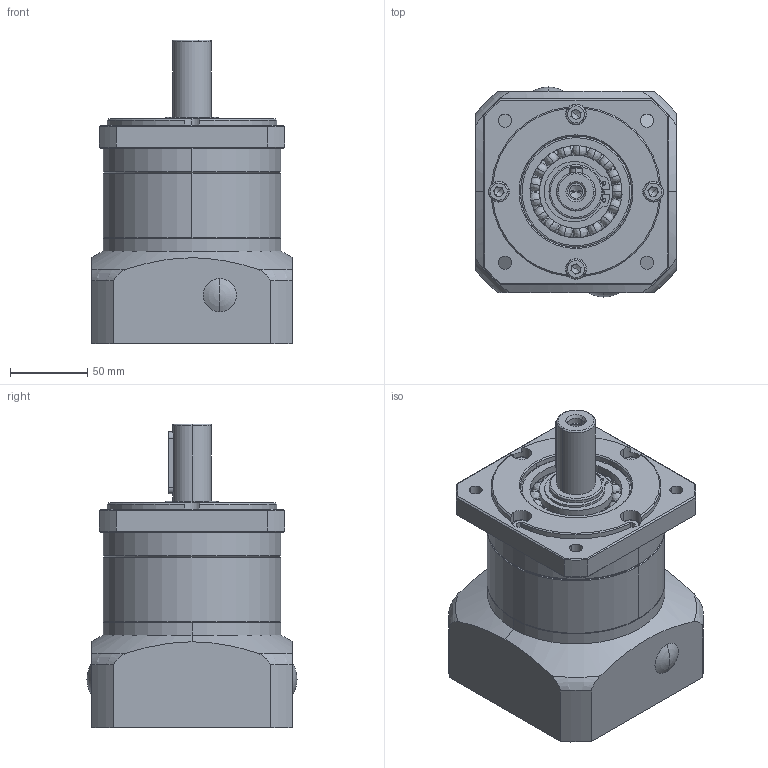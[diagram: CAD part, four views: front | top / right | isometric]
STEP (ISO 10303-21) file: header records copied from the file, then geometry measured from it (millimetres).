
FILE_DESCRIPTION (( 'STEP AP214' ), '1' );
FILE_NAME ('PF120L1-110-24-M8-145.STEP', '2020-09-10T05:55:23', ( '微软用户' ), ( '微软中国' ), 'SwSTEP 2.0', 'SolidWorks 2014', '' );
FILE_SCHEMA (( 'AUTOMOTIVE_DESIGN' ));
Length unit declared in the file: millimetre
Products named in the file (72): Hexagon socket head cap screws GB_GB_FASTENER_SCREWS_HSHCS M8X35-N; Hexagon socket head cap screws GB_GB_FASTENER_SCREWS_HSHCS M8X45-N; Spring lock washers--Normal type GB_GB_FASTENER_WASHER_SW 8; 120源怀堤傷裔; Hexagon socket head cap screws GB_GB_FASTENER_SCREWS_HSHCS M8X20-N; 130输入端盖; 俴陎粣13.513X26; 黑裔15; す瑩怀堤粣; Circlips for shaft--Type B GB_GB_CONNECTING_PIECE_RINGS_CSB 35; 夹头输入轴24; 俴陎謫35; 幗渀粣創13.513X18.513; Circlips for hole--Type B GB_GB_CONNECTING_PIECE_RINGS_CHB 72; 囀喘謫84; Parallel pins Unhardening Steel GB_GB_CONNECTING_PIECE_PIN_PPUS 6X14; Deep groove ball bearings GB_Rolling bearings 6207 GB 276-94; O形圈2.5X72; 怮栠謫12; 苤菜え27X13.6; 路燭菜え25X82.5; Plain parallel keys_GB_CONNECTING_PIECE_KEYS_CSK 8X40; PF120L1-110-24-M8-145
Assembly tree (49 placements, depth 2):
  Hexagon socket head cap screws GB_GB_FASTENER_SCREWS_HSHCS M8X35-N
  Hexagon socket head cap screws GB_GB_FASTENER_SCREWS_HSHCS M8X45-N
  Spring lock washers--Normal type GB_GB_FASTENER_WASHER_SW 8
  120源怀堤傷裔
  Hexagon socket head cap screws GB_GB_FASTENER_SCREWS_HSHCS M8X20-N
Bounding box: 130 x 136 x 196.5 mm (x, y, z)
Volume: 1471894.1 mm3; surface area: 355141.3 mm2
Topology: 49 solids, 49 shells, 1324 faces, 3907 edges, 2401 vertices
Faces by surface type: cylinder 459, plane 367, bspline 328, cone 160, torus 10
Entity records: 28417 total; most frequent: CARTESIAN_POINT 8863, ORIENTED_EDGE 3788, DIRECTION 3775, EDGE_CURVE 1894, AXIS2_PLACEMENT_3D 1584, VERTEX_POINT 1239, CIRCLE 926, EDGE_LOOP 851
